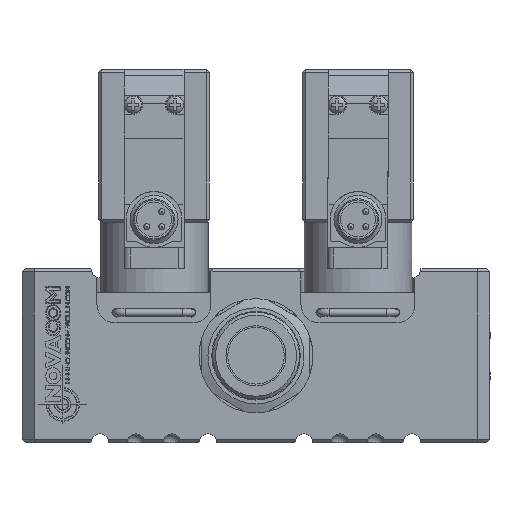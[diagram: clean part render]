
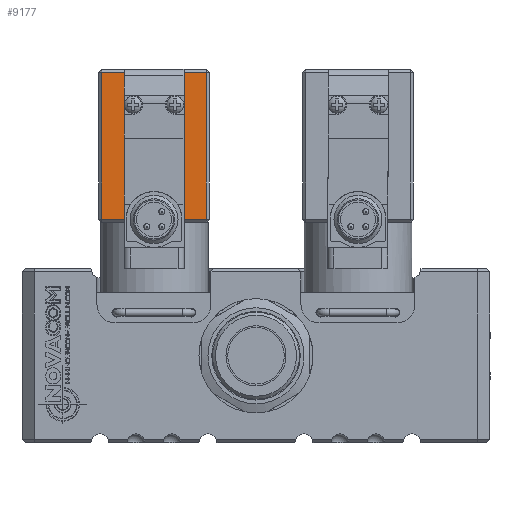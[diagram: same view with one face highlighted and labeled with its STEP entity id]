
A CAD part, left-side view. The second image highlights one B-rep face of the part: STEP entity #9177.
In plain terms, the highlighted planar face has unit normal (-1, 0, 0).
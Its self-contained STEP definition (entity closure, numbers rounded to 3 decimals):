
#4309 = CARTESIAN_POINT ( 'NONE',  ( -41.55, -8.7, 47.25 ) ) ;
#9177 = ADVANCED_FACE ( 'NONE', ( #106602 ), #77399, .F. ) ;
#11703 = CARTESIAN_POINT ( 'NONE',  ( -41.55, 8.7, 47.25 ) ) ;
#11954 = EDGE_CURVE ( 'NONE', #94164, #46662, #36064, .T. ) ;
#14010 = ORIENTED_EDGE ( 'NONE', *, *, #119553, .T. ) ;
#15202 = CARTESIAN_POINT ( 'NONE',  ( -41.55, 9.2, 22.25 ) ) ;
#16520 = DIRECTION ( 'NONE',  ( 0., 1., 0. ) ) ;
#30132 = ORIENTED_EDGE ( 'NONE', *, *, #11954, .T. ) ;
#34035 = EDGE_CURVE ( 'NONE', #42691, #94164, #49088, .T. ) ;
#36064 = LINE ( 'NONE', #92675, #91125 ) ;
#38065 = DIRECTION ( 'NONE',  ( 0., 0., -1. ) ) ;
#42691 = VERTEX_POINT ( 'NONE', #95769 ) ;
#46662 = VERTEX_POINT ( 'NONE', #11703 ) ;
#47176 = ORIENTED_EDGE ( 'NONE', *, *, #110067, .T. ) ;
#49088 = LINE ( 'NONE', #56944, #107988 ) ;
#56206 = CARTESIAN_POINT ( 'NONE',  ( -41.55, 8.7, 22.25 ) ) ;
#56944 = CARTESIAN_POINT ( 'NONE',  ( -41.55, -8.7, 22.25 ) ) ;
#67993 = DIRECTION ( 'NONE',  ( 0., 0., 1. ) ) ;
#71264 = DIRECTION ( 'NONE',  ( 1., 0., 0. ) ) ;
#77399 = PLANE ( 'NONE',  #115397 ) ;
#77543 = CARTESIAN_POINT ( 'NONE',  ( -41.55, 9.2, 22.75 ) ) ;
#84324 = LINE ( 'NONE', #56206, #105408 ) ;
#84893 = DIRECTION ( 'NONE',  ( 0., -1., 0. ) ) ;
#86854 = ORIENTED_EDGE ( 'NONE', *, *, #34035, .T. ) ;
#91125 = VECTOR ( 'NONE', #16520, 1000. ) ;
#92675 = CARTESIAN_POINT ( 'NONE',  ( -41.55, 9.2, 47.25 ) ) ;
#94164 = VERTEX_POINT ( 'NONE', #4309 ) ;
#95247 = LINE ( 'NONE', #77543, #120135 ) ;
#95769 = CARTESIAN_POINT ( 'NONE',  ( -41.55, -8.7, 22.75 ) ) ;
#100585 = EDGE_LOOP ( 'NONE', ( #14010, #86854, #30132, #47176 ) ) ;
#104927 = VERTEX_POINT ( 'NONE', #106872 ) ;
#105408 = VECTOR ( 'NONE', #38065, 1000. ) ;
#106602 = FACE_OUTER_BOUND ( 'NONE', #100585, .T. ) ;
#106872 = CARTESIAN_POINT ( 'NONE',  ( -41.55, 8.7, 22.75 ) ) ;
#107988 = VECTOR ( 'NONE', #67993, 1000. ) ;
#110067 = EDGE_CURVE ( 'NONE', #46662, #104927, #84324, .T. ) ;
#115397 = AXIS2_PLACEMENT_3D ( 'NONE', #15202, #71264, #118711 ) ;
#118711 = DIRECTION ( 'NONE',  ( 0., -1., 0. ) ) ;
#119553 = EDGE_CURVE ( 'NONE', #104927, #42691, #95247, .T. ) ;
#120135 = VECTOR ( 'NONE', #84893, 1000. ) ;
